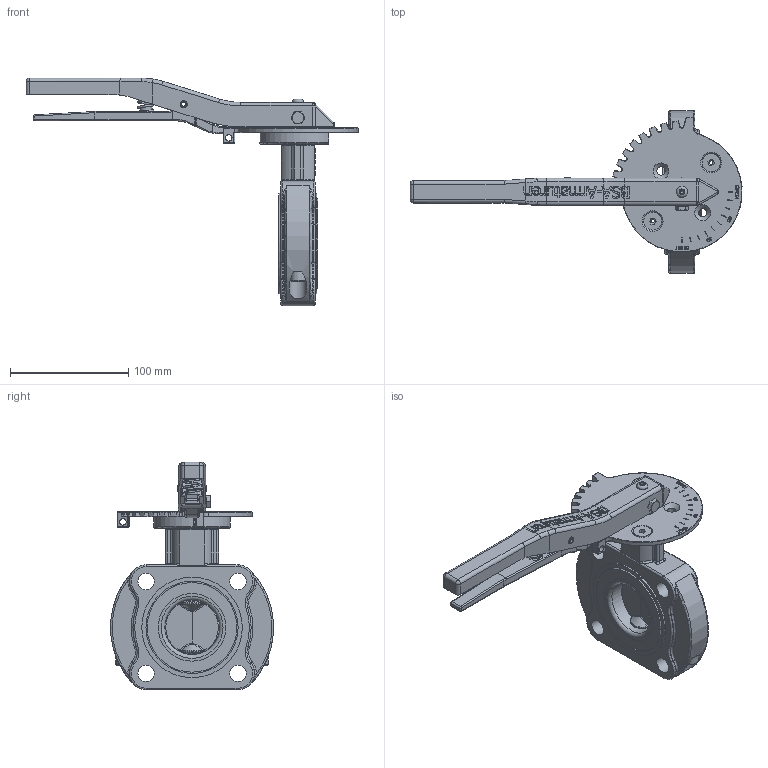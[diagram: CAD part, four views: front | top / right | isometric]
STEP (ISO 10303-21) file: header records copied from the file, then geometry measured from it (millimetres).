
FILE_DESCRIPTION((''),'2;1');
FILE_NAME('K:\Inventor\1 Artikel\10) Absperrklappen\10a) manuell\Chemvalve\844-GGG, CST-L\844-GGG, DN40\844-GGG, DN40, 3D\844-GGG, DN40, PN10-16, HH, 3D.stp','2019-08-13T12:47:53',('claudia'),(''),'Autodesk Inventor 2013','Autodesk Inventor 2013','');
FILE_SCHEMA(('AUTOMOTIVE_DESIGN { 1 0 10303 214 1 1 1 1 }'));
Length unit declared in the file: millimetre
Products named in the file (1): Bauteil27
Bounding box: 280.82 x 137.76 x 192.69 mm (x, y, z)
Volume: 466498.9 mm3; surface area: 137282.4 mm2
Topology: 1 solids, 14 shells, 2078 faces, 5370 edges, 3392 vertices
Faces by surface type: plane 805, bspline 584, cylinder 399, torus 177, cone 85, sphere 28
Full cylindrical faces by diameter (mm): 2.5 x1, 2.65 x4, 5 x1, 5.5 x2, 5.8 x1, 6 x2, 6.4 x1, 6.647 x2, 7 x6, 8 x2, 8.88 x1, 9 x2, 9.5 x1, 10 x1, 13 x6, 13.4 x4, 13.835 x4, 14 x17, 15 x2, 15.24 x2, 15.4 x2, 16.2 x4, 17.3 x4, 17.42 x2, 20 x20, 20.1 x4, 20.5 x2, 23 x1, 36 x1, 38 x1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
Entity records: 73775 total; most frequent: CARTESIAN_POINT 26050, ORIENTED_EDGE 10088, DIRECTION 8036, EDGE_CURVE 5044, VERTEX_POINT 3309, AXIS2_PLACEMENT_3D 2794, EDGE_LOOP 2467, VECTOR 2448
